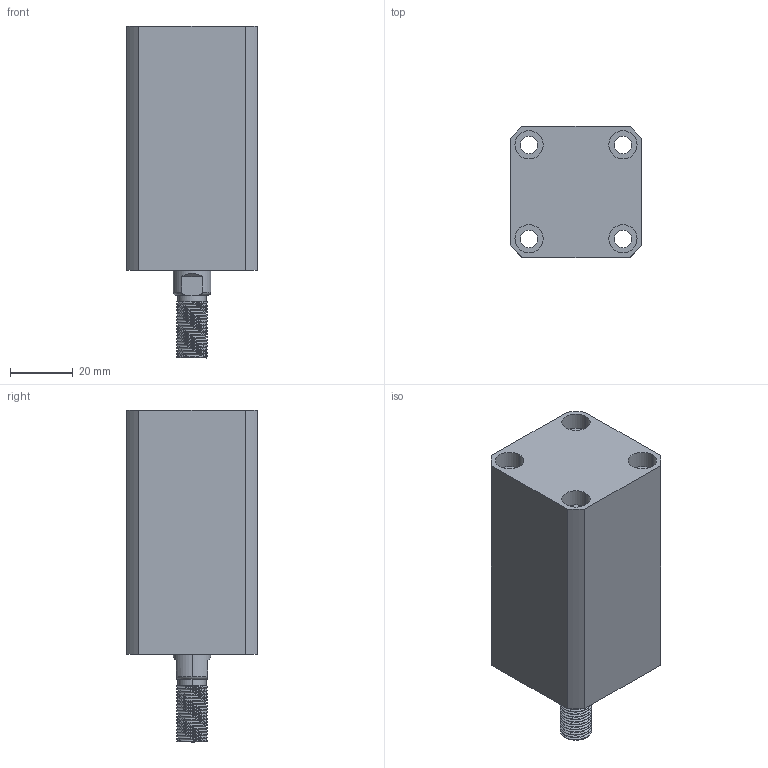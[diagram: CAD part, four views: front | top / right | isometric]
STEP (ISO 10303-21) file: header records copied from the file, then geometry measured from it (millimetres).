
FILE_DESCRIPTION (( 'STEP AP214' ), '1' );
FILE_NAME ('chtb-sd20x35w_asm.STEP', '2018-05-16T09:27:22', ( 'Windows' ), ( 'Microsoft' ), 'SwSTEP 2.0', 'SolidWorks 2015', '' );
FILE_SCHEMA (( 'AUTOMOTIVE_DESIGN' ));
Length unit declared in the file: millimetre
Products named in the file (4): CHTB-SD20X35WHSG; CHTB-SD20X35NBT; chtb-sd20x35w_asm; QG
Assembly tree (3 placements, depth 2):
  chtb-sd20x35w_asm
    CHTB-SD20X35NBT
    CHTB-SD20X35WHSG
    QG
Bounding box: 42 x 42 x 106 mm (x, y, z)
Volume: 118157.3 mm3; surface area: 36817.8 mm2
Topology: 3 solids, 3 shells, 234 faces, 624 edges, 415 vertices
Faces by surface type: cylinder 139, plane 40, torus 25, bspline 21, cone 9
Entity records: 13734 total; most frequent: CARTESIAN_POINT 8172, ORIENTED_EDGE 1240, DIRECTION 1039, EDGE_CURVE 620, AXIS2_PLACEMENT_3D 431, VERTEX_POINT 415, EDGE_LOOP 271, ADVANCED_FACE 234
